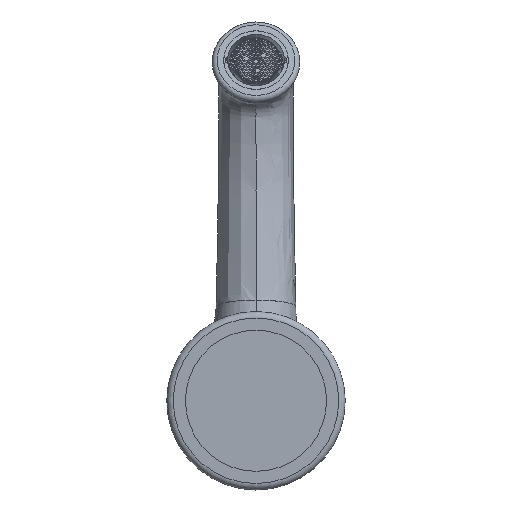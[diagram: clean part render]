
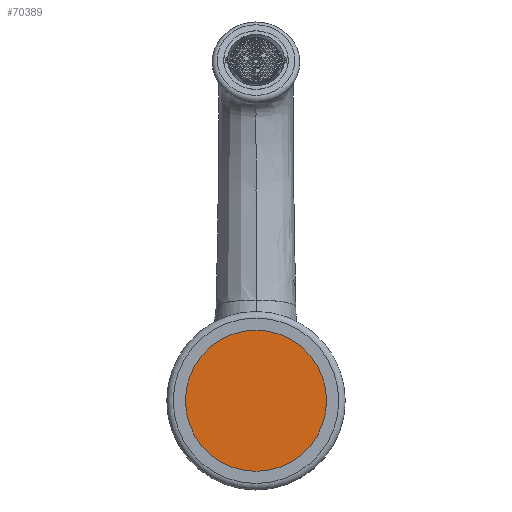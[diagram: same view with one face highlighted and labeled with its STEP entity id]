
A CAD part, front view. The second image highlights one B-rep face of the part: STEP entity #70389.
In plain terms, the highlighted planar face has unit normal (0, -1, 0).
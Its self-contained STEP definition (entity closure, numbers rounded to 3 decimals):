
#16145=FACE_OUTER_BOUND('',#19730,.T.);
#19730=EDGE_LOOP('',(#45208));
#24312=CIRCLE('',#74027,21.75);
#26141=VERTEX_POINT('',#99257);
#33615=EDGE_CURVE('',#26141,#26141,#24312,.T.);
#45208=ORIENTED_EDGE('',*,*,#33615,.F.);
#66882=PLANE('',#74088);
#70389=ADVANCED_FACE('',(#16145),#66882,.T.);
#74027=AXIS2_PLACEMENT_3D('',#99259,#79463,#79464);
#74088=AXIS2_PLACEMENT_3D('',#102977,#79590,#79591);
#79463=DIRECTION('center_axis',(0.,1.,0.));
#79464=DIRECTION('ref_axis',(0.,0.,1.));
#79590=DIRECTION('center_axis',(0.,-1.,0.));
#79591=DIRECTION('ref_axis',(1.,0.,0.));
#99257=CARTESIAN_POINT('',(0.,0.,-21.75));
#99259=CARTESIAN_POINT('Origin',(0.,0.,0.));
#102977=CARTESIAN_POINT('Origin',(24.794,0.,0.));
